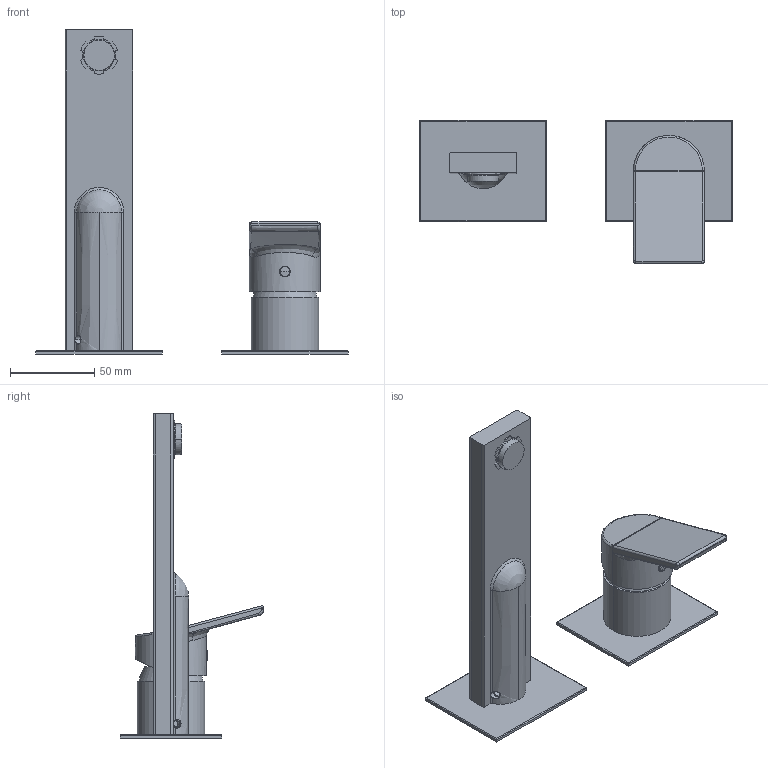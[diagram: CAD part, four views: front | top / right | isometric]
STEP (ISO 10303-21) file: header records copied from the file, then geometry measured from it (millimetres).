
FILE_DESCRIPTION((''),'2;1');
FILE_NAME('74547_SW0001','2025-03-26T10:44:39',('carloff'),(''),'CREO PARAMETRIC BY PTC INC, 2022014','CREO PARAMETRIC BY PTC INC, 2022014','');
FILE_SCHEMA(('CONFIG_CONTROL_DESIGN'));
Length unit declared in the file: millimetre
Products named in the file (1): 74547_SW0001
Bounding box: 185 x 85 x 192 mm (x, y, z)
Volume: 185146.4 mm3; surface area: 71383.1 mm2
Topology: 3 solids, 3 shells, 298 faces, 739 edges, 455 vertices
Faces by surface type: plane 102, cylinder 101, bspline 43, cone 35, torus 14, sphere 3
Entity records: 15373 total; most frequent: CARTESIAN_POINT 8700, ORIENTED_EDGE 1464, DIRECTION 1256, EDGE_CURVE 732, AXIS2_PLACEMENT_3D 471, VERTEX_POINT 455, EDGE_LOOP 319, VECTOR 314
